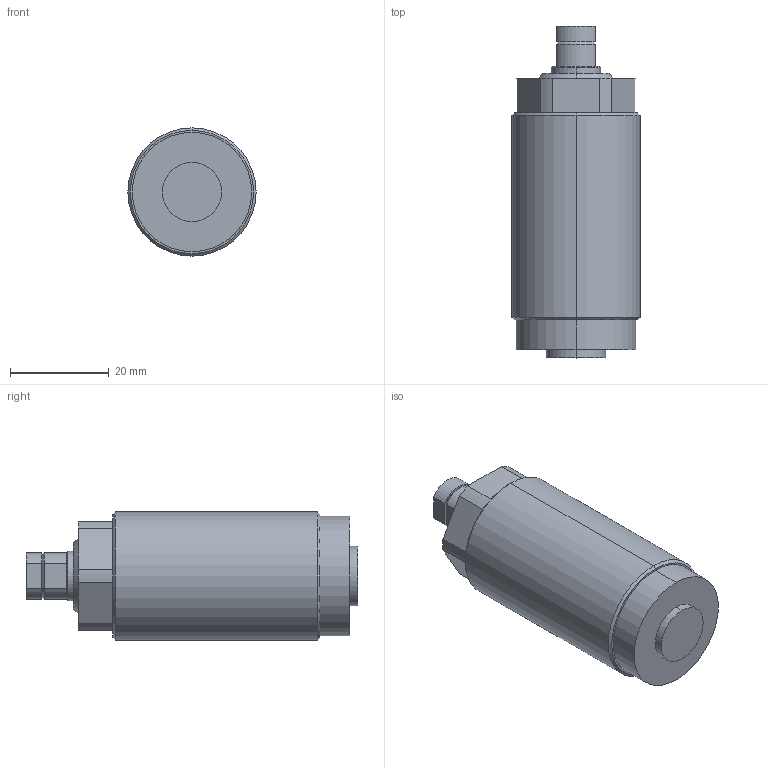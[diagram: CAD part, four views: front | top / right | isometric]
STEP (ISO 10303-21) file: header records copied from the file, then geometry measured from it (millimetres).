
FILE_DESCRIPTION (( 'STEP AP214' ), '1' );
FILE_NAME ('LSP-10B.STEP', '2021-10-18T08:46:12', ( '' ), ( '' ), 'SwSTEP 2.0', 'SolidWorks 2016', '' );
FILE_SCHEMA (( 'AUTOMOTIVE_DESIGN' ));
Length unit declared in the file: millimetre
Products named in the file (1): LSP-10B
Bounding box: 26 x 67.3 x 26 mm (x, y, z)
Volume: 28788.8 mm3; surface area: 5949.9 mm2
Topology: 1 solids, 2 shells, 58 faces, 129 edges, 79 vertices
Faces by surface type: plane 23, cylinder 22, cone 13
Entity records: 1673 total; most frequent: DIRECTION 299, CARTESIAN_POINT 277, ORIENTED_EDGE 254, EDGE_CURVE 127, AXIS2_PLACEMENT_3D 117, VERTEX_POINT 79, VECTOR 65, LINE 65
